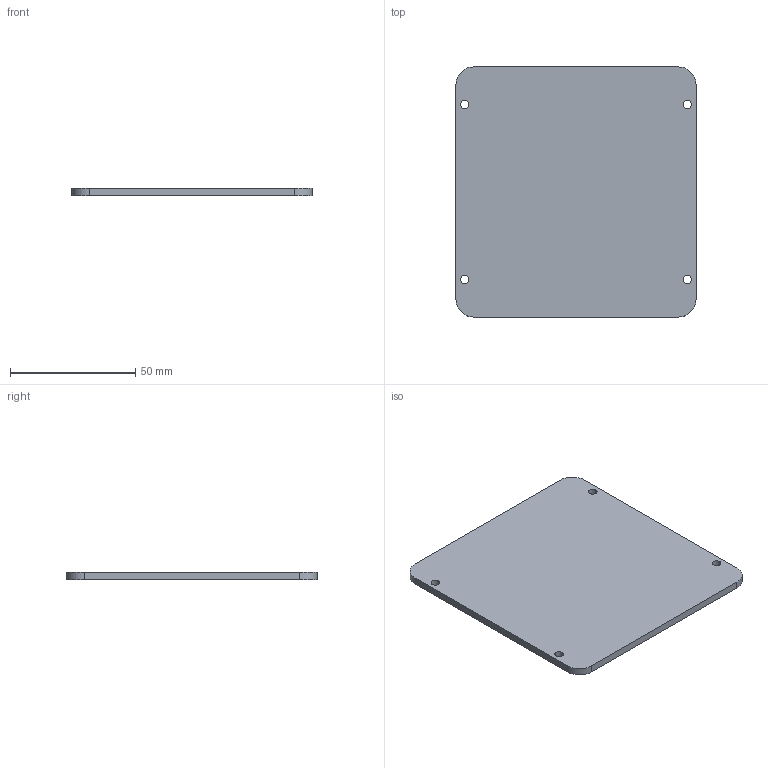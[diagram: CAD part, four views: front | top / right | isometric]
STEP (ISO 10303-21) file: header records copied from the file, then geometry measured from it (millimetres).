
FILE_DESCRIPTION(('Open CASCADE Model'),'2;1');
FILE_NAME('Open CASCADE Shape Model','2026-09-13T14:17:58',('Author'),( 'Open CASCADE'),'Open CASCADE STEP processor 7.9','Open CASCADE 7.9' ,'Unknown');
FILE_SCHEMA(('AUTOMOTIVE_DESIGN { 1 0 10303 214 1 1 1 1 }'));
Length unit declared in the file: millimetre
Products named in the file (1): Open CASCADE STEP translator 7.9 3
Bounding box: 96 x 100 x 3 mm (x, y, z)
Volume: 28564.9 mm3; surface area: 20311.4 mm2
Topology: 1 solids, 1 shells, 14 faces, 36 edges, 24 vertices
Faces by surface type: cylinder 8, plane 6
Full cylindrical faces by diameter (mm): 3.4 x4
Entity records: 942 total; most frequent: CARTESIAN_POINT 171, DIRECTION 150, LINE 76, VECTOR 76, ORIENTED_EDGE 72, PCURVE 72, DEFINITIONAL_REPRESENTATION 72, EDGE_CURVE 36
